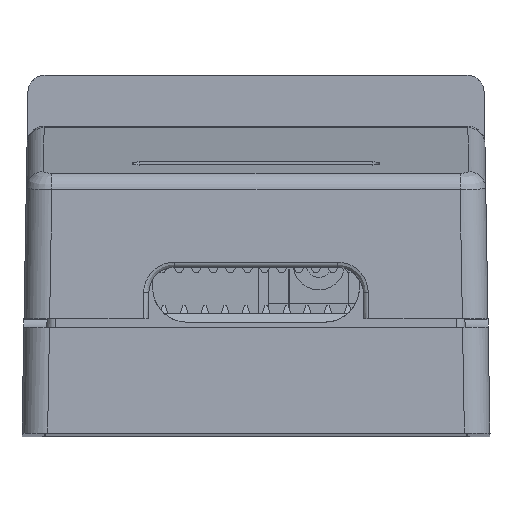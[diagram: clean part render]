
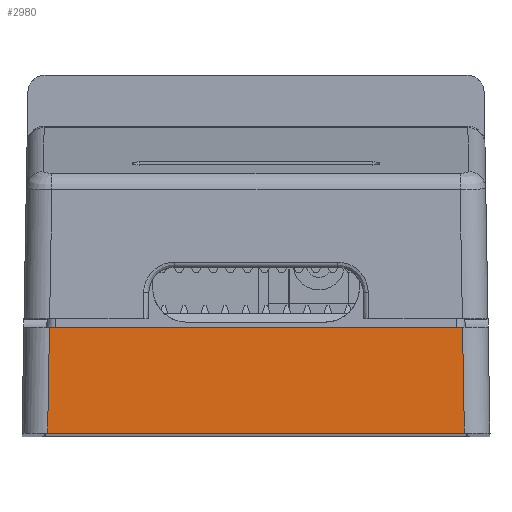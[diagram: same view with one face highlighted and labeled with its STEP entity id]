
A CAD part, top view. The second image highlights one B-rep face of the part: STEP entity #2980.
In plain terms, the highlighted planar face has unit normal (0, 0.018, 1).
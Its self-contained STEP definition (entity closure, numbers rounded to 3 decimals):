
#550=CARTESIAN_POINT('',(-12.2,0.,63.5));
#560=VERTEX_POINT('',#550);
#590=CARTESIAN_POINT('',(12.2,0.,63.5));
#600=DIRECTION('',(-1.,0.,0.));
#610=VECTOR('',#600,1.);
#620=LINE('',#590,#610);
#630=CARTESIAN_POINT('',(12.2,0.,
63.5));
#640=VERTEX_POINT('',#630);
#650=EDGE_CURVE('',#640,#560,#620,.T.);
#2480=CARTESIAN_POINT('',(12.092,6.2,
63.392));
#2490=DIRECTION('',(0.017,-1.,
0.017));
#2500=VECTOR('',#2490,1.);
#2510=LINE('',#2480,#2500);
#2520=CARTESIAN_POINT('',(12.092,6.2,63.392));
#2530=VERTEX_POINT('',#2520);
#2540=EDGE_CURVE('',#2530,#640,#2510,.T.);
#2750=CARTESIAN_POINT('',(-14.82,0.,63.5));
#2760=DIRECTION('',(0.,0.017,1.));
#2770=DIRECTION('',(-1.,0.,0.));
#2780=AXIS2_PLACEMENT_3D('',#2750,#2760,#2770);
#2790=PLANE('',#2780);
#2800=ORIENTED_EDGE('',*,*,#650,.F.);
#2810=CARTESIAN_POINT('',(-12.2,0.,
63.5));
#2820=DIRECTION('',(0.017,1.,
-0.017));
#2830=VECTOR('',#2820,1.);
#2840=LINE('',#2810,#2830);
#2850=CARTESIAN_POINT('',(-12.092,6.2,63.392));
#2860=VERTEX_POINT('',#2850);
#2870=EDGE_CURVE('',#560,#2860,#2840,.T.);
#2880=ORIENTED_EDGE('',*,*,#2870,.F.);
#2890=CARTESIAN_POINT('',(12.092,6.2,63.392));
#2900=DIRECTION('',(-1.,0.,0.));
#2910=VECTOR('',#2900,1.);
#2920=LINE('',#2890,#2910);
#2930=EDGE_CURVE('',#2530,#2860,#2920,.T.);
#2940=ORIENTED_EDGE('',*,*,#2930,.T.);
#2950=ORIENTED_EDGE('',*,*,#2540,.F.);
#2960=EDGE_LOOP('',(#2950,#2940,#2880,#2800));
#2970=FACE_OUTER_BOUND('',#2960,.T.);
#2980=ADVANCED_FACE('',(#2970),#2790,.T.);
